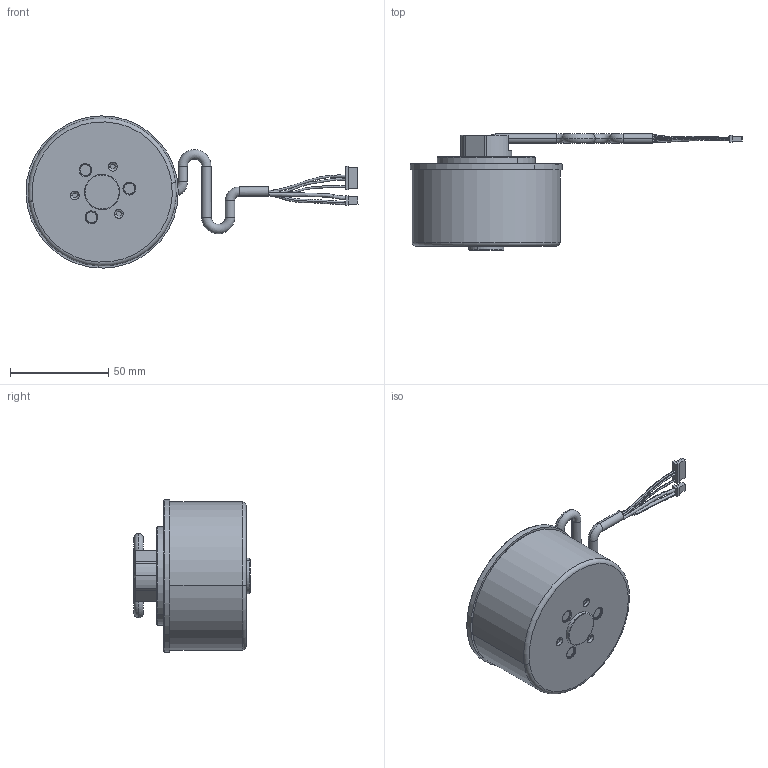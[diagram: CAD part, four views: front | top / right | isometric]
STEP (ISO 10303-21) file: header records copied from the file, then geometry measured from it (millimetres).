
FILE_DESCRIPTION (( 'STEP AP214' ), '1' );
FILE_NAME ('CP.BM.000039 M0701A_111 外形图.STEP', '2023-03-06T06:47:25', ( '微软用户' ), ( '微软中国' ), 'SwSTEP 2.0', 'SolidWorks 2018', '' );
FILE_SCHEMA (( 'AUTOMOTIVE_DESIGN' ));
Length unit declared in the file: millimetre
Products named in the file (1): CP.BM.000039 M0701A_111 俋倛芞
Bounding box: 168.94 x 59.15 x 77.49 mm (x, y, z)
Volume: 195065.7 mm3; surface area: 29505 mm2
Topology: 7 solids, 11 shells, 1164 faces, 3146 edges, 2060 vertices
Faces by surface type: plane 810, bspline 169, cylinder 96, cone 51, torus 34, sphere 4
Entity records: 55286 total; most frequent: CARTESIAN_POINT 18119, ORIENTED_EDGE 6280, DIRECTION 5310, EDGE_CURVE 3140, LINE 2206, VECTOR 2206, VERTEX_POINT 2060, AXIS2_PLACEMENT_3D 1552
